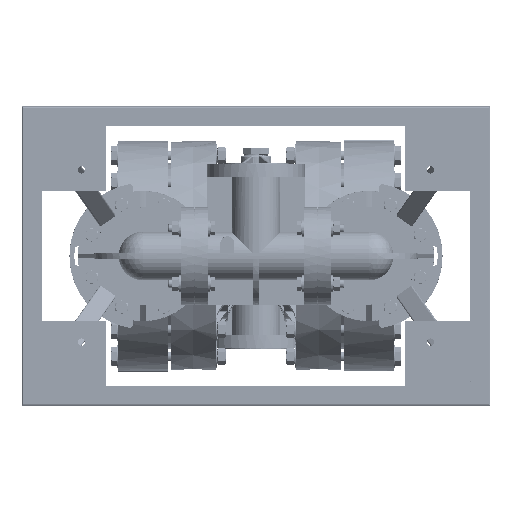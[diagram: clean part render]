
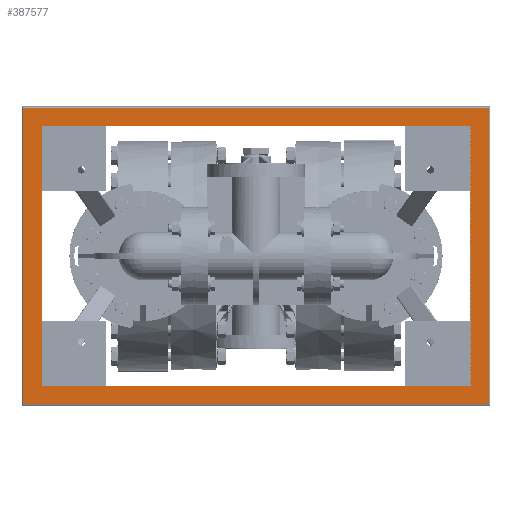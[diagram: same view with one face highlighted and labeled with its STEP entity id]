
A CAD part, front view. The second image highlights one B-rep face of the part: STEP entity #387577.
In plain terms, the highlighted planar face has unit normal (0, -1, 0).
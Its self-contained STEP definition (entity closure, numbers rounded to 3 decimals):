
#34608 = LINE ( 'NONE', #642877, #311819 ) ;
#49626 = DIRECTION ( 'NONE',  ( 0., 0., -1. ) ) ;
#50432 = DIRECTION ( 'NONE',  ( 0., 0., -1. ) ) ;
#53030 = ORIENTED_EDGE ( 'NONE', *, *, #240821, .T. ) ;
#55636 = DIRECTION ( 'NONE',  ( -1., 0., 0. ) ) ;
#57962 = PLANE ( 'NONE',  #638804 ) ;
#61418 = CARTESIAN_POINT ( 'NONE',  ( -16.5, -26.434, 10. ) ) ;
#66615 = CARTESIAN_POINT ( 'NONE',  ( -17.89, -26.434, 11.39 ) ) ;
#88706 = VERTEX_POINT ( 'NONE', #630636 ) ;
#105809 = DIRECTION ( 'NONE',  ( 0., 0., 1. ) ) ;
#118052 = VERTEX_POINT ( 'NONE', #433693 ) ;
#139208 = CARTESIAN_POINT ( 'NONE',  ( 16.5, -26.434, 10. ) ) ;
#147658 = LINE ( 'NONE', #374587, #590855 ) ;
#152516 = VERTEX_POINT ( 'NONE', #339101 ) ;
#167305 = VERTEX_POINT ( 'NONE', #66615 ) ;
#186873 = VECTOR ( 'NONE', #570147, 39.37 ) ;
#195625 = DIRECTION ( 'NONE',  ( 0., 0., 1. ) ) ;
#200153 = EDGE_CURVE ( 'NONE', #152516, #88706, #34608, .T. ) ;
#217054 = EDGE_CURVE ( 'NONE', #250435, #118052, #248187, .T. ) ;
#221510 = LINE ( 'NONE', #479731, #355893 ) ;
#229172 = VERTEX_POINT ( 'NONE', #238215 ) ;
#238215 = CARTESIAN_POINT ( 'NONE',  ( 16.5, -26.434, -10. ) ) ;
#240821 = EDGE_CURVE ( 'NONE', #167305, #152516, #221510, .T. ) ;
#248187 = LINE ( 'NONE', #61418, #324517 ) ;
#250435 = VERTEX_POINT ( 'NONE', #471756 ) ;
#272129 = ORIENTED_EDGE ( 'NONE', *, *, #200153, .T. ) ;
#284745 = FACE_BOUND ( 'NONE', #311492, .T. ) ;
#293355 = EDGE_CURVE ( 'NONE', #782564, #167305, #387318, .T. ) ;
#311492 = EDGE_LOOP ( 'NONE', ( #381708, #699073, #577651, #406169 ) ) ;
#311819 = VECTOR ( 'NONE', #519580, 39.37 ) ;
#324517 = VECTOR ( 'NONE', #49626, 39.37 ) ;
#326470 = EDGE_LOOP ( 'NONE', ( #53030, #272129, #462739, #715853 ) ) ;
#336115 = EDGE_CURVE ( 'NONE', #229172, #676871, #147658, .T. ) ;
#339101 = CARTESIAN_POINT ( 'NONE',  ( -17.89, -26.434, -11.39 ) ) ;
#340485 = CARTESIAN_POINT ( 'NONE',  ( 17.89, -26.434, -11.39 ) ) ;
#351787 = CARTESIAN_POINT ( 'NONE',  ( 17.89, -26.434, 11.39 ) ) ;
#355893 = VECTOR ( 'NONE', #50432, 39.37 ) ;
#374587 = CARTESIAN_POINT ( 'NONE',  ( 16.5, -26.434, -10. ) ) ;
#381708 = ORIENTED_EDGE ( 'NONE', *, *, #336115, .F. ) ;
#387318 = LINE ( 'NONE', #633716, #186873 ) ;
#387577 = ADVANCED_FACE ( 'NONE', ( #773763, #284745 ), #57962, .F. ) ;
#406169 = ORIENTED_EDGE ( 'NONE', *, *, #459386, .F. ) ;
#415297 = EDGE_CURVE ( 'NONE', #118052, #229172, #483734, .T. ) ;
#419737 = CARTESIAN_POINT ( 'NONE',  ( 0., -26.434, 0. ) ) ;
#428802 = VECTOR ( 'NONE', #658732, 39.37 ) ;
#433693 = CARTESIAN_POINT ( 'NONE',  ( -16.5, -26.434, -10. ) ) ;
#459386 = EDGE_CURVE ( 'NONE', #676871, #250435, #652094, .T. ) ;
#462739 = ORIENTED_EDGE ( 'NONE', *, *, #529201, .T. ) ;
#471756 = CARTESIAN_POINT ( 'NONE',  ( -16.5, -26.434, 10. ) ) ;
#479731 = CARTESIAN_POINT ( 'NONE',  ( -17.89, -26.434, 11.39 ) ) ;
#483734 = LINE ( 'NONE', #722380, #428802 ) ;
#519580 = DIRECTION ( 'NONE',  ( 1., 0., 0. ) ) ;
#529201 = EDGE_CURVE ( 'NONE', #88706, #782564, #758089, .T. ) ;
#570147 = DIRECTION ( 'NONE',  ( -1., 0., 0. ) ) ;
#577651 = ORIENTED_EDGE ( 'NONE', *, *, #217054, .F. ) ;
#586955 = DIRECTION ( 'NONE',  ( 0., 1., 0. ) ) ;
#590855 = VECTOR ( 'NONE', #195625, 39.37 ) ;
#590876 = DIRECTION ( 'NONE',  ( 1., 0., 0. ) ) ;
#630636 = CARTESIAN_POINT ( 'NONE',  ( 17.89, -26.434, -11.39 ) ) ;
#633716 = CARTESIAN_POINT ( 'NONE',  ( 17.89, -26.434, 11.39 ) ) ;
#638804 = AXIS2_PLACEMENT_3D ( 'NONE', #419737, #586955, #590876 ) ;
#639811 = VECTOR ( 'NONE', #105809, 39.37 ) ;
#642877 = CARTESIAN_POINT ( 'NONE',  ( -17.89, -26.434, -11.39 ) ) ;
#652094 = LINE ( 'NONE', #659928, #772971 ) ;
#658732 = DIRECTION ( 'NONE',  ( 1., 0., 0. ) ) ;
#659928 = CARTESIAN_POINT ( 'NONE',  ( 16.5, -26.434, 10. ) ) ;
#676871 = VERTEX_POINT ( 'NONE', #139208 ) ;
#699073 = ORIENTED_EDGE ( 'NONE', *, *, #415297, .F. ) ;
#715853 = ORIENTED_EDGE ( 'NONE', *, *, #293355, .T. ) ;
#722380 = CARTESIAN_POINT ( 'NONE',  ( -16.5, -26.434, -10. ) ) ;
#758089 = LINE ( 'NONE', #340485, #639811 ) ;
#772971 = VECTOR ( 'NONE', #55636, 39.37 ) ;
#773763 = FACE_OUTER_BOUND ( 'NONE', #326470, .T. ) ;
#782564 = VERTEX_POINT ( 'NONE', #351787 ) ;
